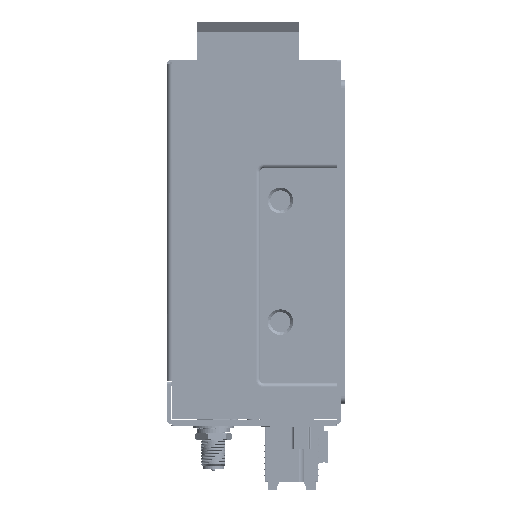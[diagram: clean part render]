
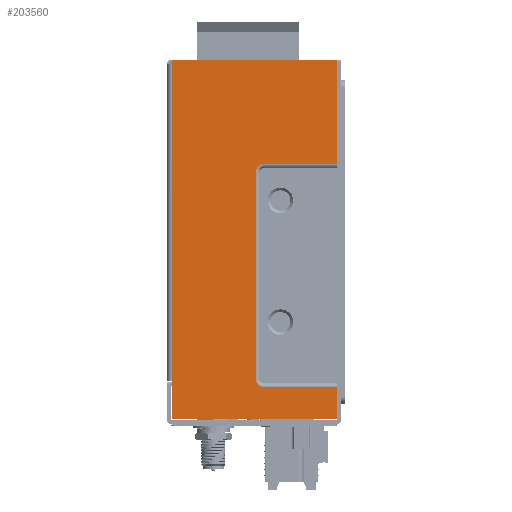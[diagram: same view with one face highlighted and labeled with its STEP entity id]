
A CAD part, left-side view. The second image highlights one B-rep face of the part: STEP entity #203560.
In plain terms, the highlighted planar face has unit normal (-1, 0, 0).
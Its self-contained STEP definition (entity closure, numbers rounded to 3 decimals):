
#1942 = ORIENTED_EDGE ( 'NONE', *, *, #507403, .T. ) ;
#10013 = VECTOR ( 'NONE', #550733, 1000. ) ;
#24344 = DIRECTION ( 'NONE',  ( 0., 0., -1. ) ) ;
#26593 = VERTEX_POINT ( 'NONE', #405862 ) ;
#29170 = CARTESIAN_POINT ( 'NONE',  ( 0., 21., -51.35 ) ) ;
#29394 = CIRCLE ( 'NONE', #293245, 0.5 ) ;
#32786 = VECTOR ( 'NONE', #541940, 1000. ) ;
#43656 = CARTESIAN_POINT ( 'NONE',  ( 0., 0.75, -78.6 ) ) ;
#44566 = CARTESIAN_POINT ( 'NONE',  ( 0., 40.5, 9.65 ) ) ;
#53613 = DIRECTION ( 'NONE',  ( 0., 1., 0. ) ) ;
#62512 = EDGE_CURVE ( 'NONE', #670402, #241127, #290145, .T. ) ;
#64261 = VECTOR ( 'NONE', #146994, 1000. ) ;
#66411 = DIRECTION ( 'NONE',  ( 0., 1., 0. ) ) ;
#68408 = EDGE_CURVE ( 'NONE', #322181, #348328, #190840, .T. ) ;
#68985 = VERTEX_POINT ( 'NONE', #391715 ) ;
#73282 = ORIENTED_EDGE ( 'NONE', *, *, #378318, .F. ) ;
#85813 = ORIENTED_EDGE ( 'NONE', *, *, #250499, .T. ) ;
#88813 = VECTOR ( 'NONE', #309116, 1000. ) ;
#89051 = VERTEX_POINT ( 'NONE', #126220 ) ;
#90949 = EDGE_CURVE ( 'NONE', #93861, #89051, #162312, .T. ) ;
#92039 = CARTESIAN_POINT ( 'NONE',  ( 0., 41., 9.15 ) ) ;
#93448 = CARTESIAN_POINT ( 'NONE',  ( 0., 0.25, -77.923 ) ) ;
#93861 = VERTEX_POINT ( 'NONE', #361621 ) ;
#106670 = AXIS2_PLACEMENT_3D ( 'NONE', #328068, #537887, #66411 ) ;
#107762 = DIRECTION ( 'NONE',  ( 0., 0., -1. ) ) ;
#122929 = LINE ( 'NONE', #332752, #509648 ) ;
#125236 = DIRECTION ( 'NONE',  ( 0., 1., 0. ) ) ;
#126220 = CARTESIAN_POINT ( 'NONE',  ( 0., 21., -0.35 ) ) ;
#129132 = ORIENTED_EDGE ( 'NONE', *, *, #62512, .T. ) ;
#130241 = EDGE_CURVE ( 'NONE', #68985, #421060, #572426, .T. ) ;
#134378 = LINE ( 'NONE', #502514, #10013 ) ;
#136147 = CARTESIAN_POINT ( 'NONE',  ( 0., 0.25, -78.6 ) ) ;
#138073 = EDGE_CURVE ( 'NONE', #346300, #660458, #186320, .T. ) ;
#139183 = VERTEX_POINT ( 'NONE', #360658 ) ;
#146400 = DIRECTION ( 'NONE',  ( 0., 0., 1. ) ) ;
#146994 = DIRECTION ( 'NONE',  ( 0., 1., 0. ) ) ;
#147067 = DIRECTION ( 'NONE',  ( 0., 1., 0. ) ) ;
#161873 = CIRCLE ( 'NONE', #106670, 0.5 ) ;
#162312 = CIRCLE ( 'NONE', #601766, 2. ) ;
#175028 = ORIENTED_EDGE ( 'NONE', *, *, #579559, .T. ) ;
#186320 = LINE ( 'NONE', #599119, #652164 ) ;
#190840 = CIRCLE ( 'NONE', #531024, 0.5 ) ;
#192500 = DIRECTION ( 'NONE',  ( 0., 0., -1. ) ) ;
#193590 = FACE_OUTER_BOUND ( 'NONE', #679154, .T. ) ;
#195850 = VERTEX_POINT ( 'NONE', #93448 ) ;
#203560 = ADVANCED_FACE ( 'NONE', ( #193590 ), #255180, .F. ) ;
#212431 = CARTESIAN_POINT ( 'NONE',  ( 0., 41., 9.65 ) ) ;
#219498 = CARTESIAN_POINT ( 'NONE',  ( 0., 0.25, -79.1 ) ) ;
#241127 = VERTEX_POINT ( 'NONE', #515807 ) ;
#242429 = ORIENTED_EDGE ( 'NONE', *, *, #524375, .F. ) ;
#244832 = EDGE_CURVE ( 'NONE', #421060, #26593, #161873, .T. ) ;
#245038 = CARTESIAN_POINT ( 'NONE',  ( 0., 0., 0. ) ) ;
#246801 = ORIENTED_EDGE ( 'NONE', *, *, #244832, .T. ) ;
#249410 = DIRECTION ( 'NONE',  ( -1., 0., 0. ) ) ;
#250499 = EDGE_CURVE ( 'NONE', #26593, #322181, #574050, .T. ) ;
#255180 = PLANE ( 'NONE',  #505208 ) ;
#263296 = VECTOR ( 'NONE', #422192, 1000. ) ;
#263958 = LINE ( 'NONE', #212431, #263296 ) ;
#270339 = LINE ( 'NONE', #335524, #32786 ) ;
#281129 = DIRECTION ( 'NONE',  ( 0., 0., -1. ) ) ;
#290124 = ORIENTED_EDGE ( 'NONE', *, *, #130241, .T. ) ;
#290145 = CIRCLE ( 'NONE', #410980, 2. ) ;
#293245 = AXIS2_PLACEMENT_3D ( 'NONE', #370241, #302472, #53613 ) ;
#302472 = DIRECTION ( 'NONE',  ( -1., 0., 0. ) ) ;
#309116 = DIRECTION ( 'NONE',  ( 0., -1., 0. ) ) ;
#313103 = CARTESIAN_POINT ( 'NONE',  ( 0., 0.75, 9.65 ) ) ;
#320930 = DIRECTION ( 'NONE',  ( 0., 1., 0. ) ) ;
#322181 = VERTEX_POINT ( 'NONE', #554438 ) ;
#327743 = DIRECTION ( 'NONE',  ( 1., 0., 0. ) ) ;
#328068 = CARTESIAN_POINT ( 'NONE',  ( 0., 40.5, -78.6 ) ) ;
#332609 = CIRCLE ( 'NONE', #651314, 0.5 ) ;
#332752 = CARTESIAN_POINT ( 'NONE',  ( 0., 0.25, -79.1 ) ) ;
#335524 = CARTESIAN_POINT ( 'NONE',  ( 0., 23., 1.65 ) ) ;
#346300 = VERTEX_POINT ( 'NONE', #92039 ) ;
#348328 = VERTEX_POINT ( 'NONE', #136147 ) ;
#353469 = ORIENTED_EDGE ( 'NONE', *, *, #478172, .T. ) ;
#355314 = VECTOR ( 'NONE', #146400, 1000. ) ;
#356617 = ORIENTED_EDGE ( 'NONE', *, *, #630615, .T. ) ;
#360658 = CARTESIAN_POINT ( 'NONE',  ( 0., 0.25, 0.15 ) ) ;
#361621 = CARTESIAN_POINT ( 'NONE',  ( 0., 23., 1.65 ) ) ;
#364057 = VECTOR ( 'NONE', #107762, 1000. ) ;
#366970 = LINE ( 'NONE', #456655, #64261 ) ;
#370241 = CARTESIAN_POINT ( 'NONE',  ( 0., 0.75, 9.15 ) ) ;
#378318 = EDGE_CURVE ( 'NONE', #139183, #195850, #122929, .T. ) ;
#391539 = CARTESIAN_POINT ( 'NONE',  ( 0., 41., 1.65 ) ) ;
#391715 = CARTESIAN_POINT ( 'NONE',  ( 0., 41., -53.35 ) ) ;
#405862 = CARTESIAN_POINT ( 'NONE',  ( 0., 40.5, -79.1 ) ) ;
#407662 = CARTESIAN_POINT ( 'NONE',  ( 0., 40.5, 9.15 ) ) ;
#407821 = LINE ( 'NONE', #466186, #355314 ) ;
#410980 = AXIS2_PLACEMENT_3D ( 'NONE', #438275, #658278, #125236 ) ;
#414473 = DIRECTION ( 'NONE',  ( 0., 1., 0. ) ) ;
#421060 = VERTEX_POINT ( 'NONE', #449138 ) ;
#422192 = DIRECTION ( 'NONE',  ( 0., -1., 0. ) ) ;
#422263 = CARTESIAN_POINT ( 'NONE',  ( 0., 0.25, 9.15 ) ) ;
#427639 = CARTESIAN_POINT ( 'NONE',  ( 0., 41., 0. ) ) ;
#434682 = ORIENTED_EDGE ( 'NONE', *, *, #613148, .F. ) ;
#438275 = CARTESIAN_POINT ( 'NONE',  ( 0., 23., -51.35 ) ) ;
#449138 = CARTESIAN_POINT ( 'NONE',  ( 0., 41., -78.6 ) ) ;
#453811 = CARTESIAN_POINT ( 'NONE',  ( 0., 0.25, 9.65 ) ) ;
#454878 = DIRECTION ( 'NONE',  ( 1., 0., 0. ) ) ;
#456655 = CARTESIAN_POINT ( 'NONE',  ( 0., 0., -53.35 ) ) ;
#463955 = LINE ( 'NONE', #453811, #618977 ) ;
#466186 = CARTESIAN_POINT ( 'NONE',  ( 0., 0.25, -119.862 ) ) ;
#466866 = DIRECTION ( 'NONE',  ( -1., 0., 0. ) ) ;
#478172 = EDGE_CURVE ( 'NONE', #348328, #195850, #407821, .T. ) ;
#481868 = VERTEX_POINT ( 'NONE', #313103 ) ;
#502514 = CARTESIAN_POINT ( 'NONE',  ( 0., 21., 0. ) ) ;
#504509 = ORIENTED_EDGE ( 'NONE', *, *, #68408, .T. ) ;
#505208 = AXIS2_PLACEMENT_3D ( 'NONE', #245038, #454878, #664725 ) ;
#507403 = EDGE_CURVE ( 'NONE', #660458, #93861, #270339, .T. ) ;
#509648 = VECTOR ( 'NONE', #281129, 1000. ) ;
#515807 = CARTESIAN_POINT ( 'NONE',  ( 0., 23., -53.35 ) ) ;
#524375 = EDGE_CURVE ( 'NONE', #633523, #481868, #263958, .T. ) ;
#524639 = ORIENTED_EDGE ( 'NONE', *, *, #578326, .T. ) ;
#531024 = AXIS2_PLACEMENT_3D ( 'NONE', #43656, #466866, #147067 ) ;
#537572 = CARTESIAN_POINT ( 'NONE',  ( 0., 23., -0.35 ) ) ;
#537887 = DIRECTION ( 'NONE',  ( -1., 0., 0. ) ) ;
#541940 = DIRECTION ( 'NONE',  ( 0., -1., 0. ) ) ;
#543970 = EDGE_CURVE ( 'NONE', #633523, #346300, #332609, .T. ) ;
#550733 = DIRECTION ( 'NONE',  ( 0., 0., -1. ) ) ;
#554438 = CARTESIAN_POINT ( 'NONE',  ( 0., 0.75, -79.1 ) ) ;
#558945 = ORIENTED_EDGE ( 'NONE', *, *, #90949, .T. ) ;
#572426 = LINE ( 'NONE', #427639, #364057 ) ;
#574050 = LINE ( 'NONE', #219498, #88813 ) ;
#578326 = EDGE_CURVE ( 'NONE', #649042, #481868, #29394, .T. ) ;
#579559 = EDGE_CURVE ( 'NONE', #241127, #68985, #366970, .T. ) ;
#592645 = ORIENTED_EDGE ( 'NONE', *, *, #138073, .T. ) ;
#599119 = CARTESIAN_POINT ( 'NONE',  ( 0., 41., 0. ) ) ;
#601766 = AXIS2_PLACEMENT_3D ( 'NONE', #537572, #327743, #320930 ) ;
#613148 = EDGE_CURVE ( 'NONE', #649042, #139183, #463955, .T. ) ;
#618977 = VECTOR ( 'NONE', #192500, 1000. ) ;
#630615 = EDGE_CURVE ( 'NONE', #89051, #670402, #134378, .T. ) ;
#633523 = VERTEX_POINT ( 'NONE', #44566 ) ;
#649042 = VERTEX_POINT ( 'NONE', #422263 ) ;
#651314 = AXIS2_PLACEMENT_3D ( 'NONE', #407662, #249410, #414473 ) ;
#652164 = VECTOR ( 'NONE', #24344, 1000. ) ;
#658278 = DIRECTION ( 'NONE',  ( 1., 0., 0. ) ) ;
#660458 = VERTEX_POINT ( 'NONE', #391539 ) ;
#664725 = DIRECTION ( 'NONE',  ( 0., 1., 0. ) ) ;
#670402 = VERTEX_POINT ( 'NONE', #29170 ) ;
#675871 = ORIENTED_EDGE ( 'NONE', *, *, #543970, .T. ) ;
#679154 = EDGE_LOOP ( 'NONE', ( #85813, #504509, #353469, #73282, #434682, #524639, #242429, #675871, #592645, #1942, #558945, #356617, #129132, #175028, #290124, #246801 ) ) ;
